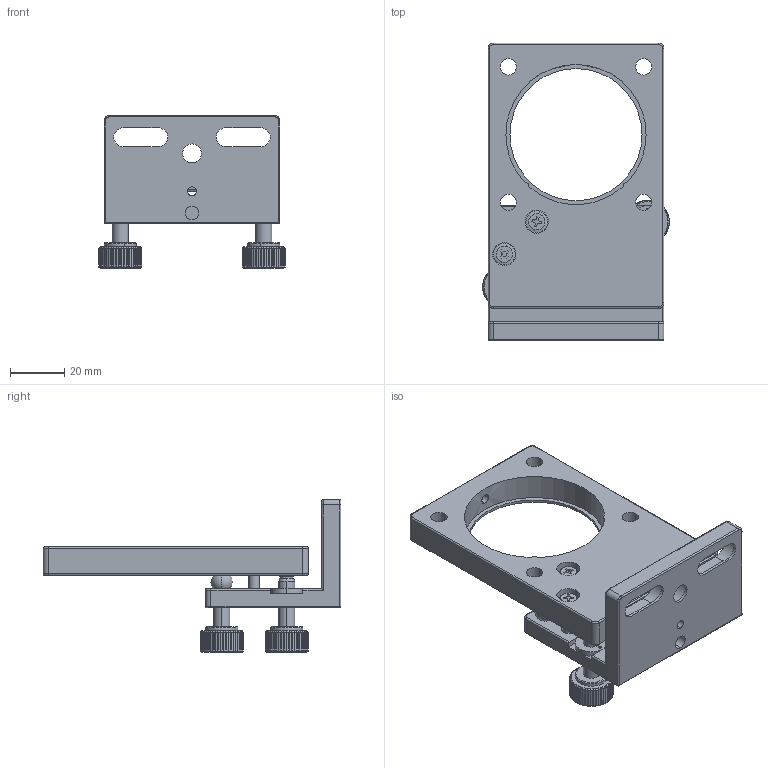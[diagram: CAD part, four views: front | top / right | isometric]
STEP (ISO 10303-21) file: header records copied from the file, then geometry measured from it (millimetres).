
FILE_DESCRIPTION (( 'STEP AP203' ), '1' );
FILE_NAME ('M-BM-2-HOX.STEP', '2021-02-22T08:16:17', ( '¦K¬P' ), ( '' ), 'SwSTEP 2.0', 'SolidWorks 2019', '' );
FILE_SCHEMA (( 'CONFIG_CONTROL_DESIGN' ));
Length unit declared in the file: millimetre
Products named in the file (1): M-BM-2-HOX
Bounding box: 69 x 110 x 56.5 mm (x, y, z)
Volume: 80530.4 mm3; surface area: 33105.4 mm2
Topology: 13 solids, 16 shells, 871 faces, 2199 edges, 1385 vertices
Faces by surface type: plane 380, cylinder 352, torus 71, cone 44, sphere 24
Entity records: 26538 total; most frequent: CARTESIAN_POINT 5680, DIRECTION 4373, ORIENTED_EDGE 4344, EDGE_CURVE 2172, AXIS2_PLACEMENT_3D 1733, VERTEX_POINT 1378, EDGE_LOOP 964, LINE 907
